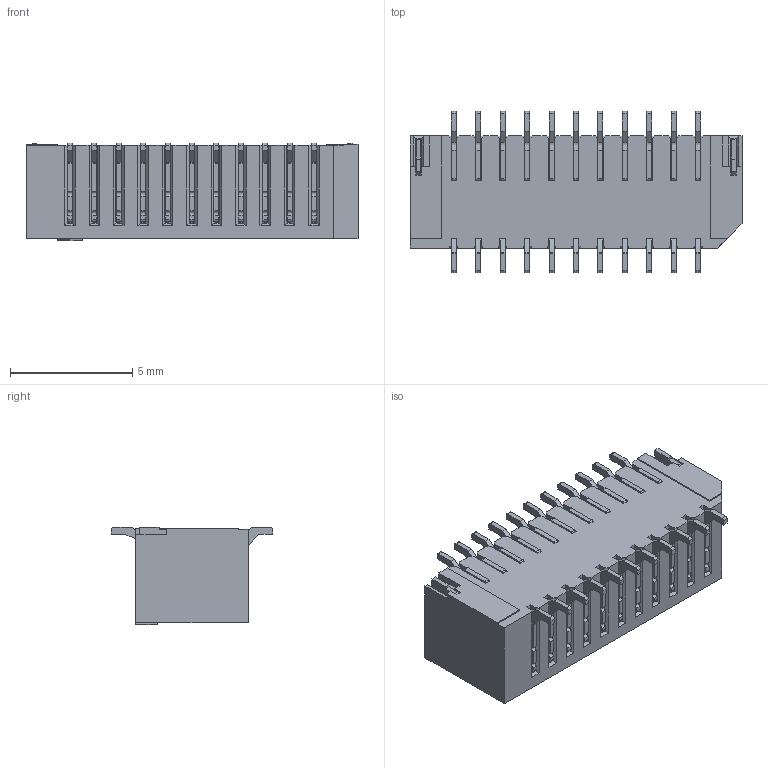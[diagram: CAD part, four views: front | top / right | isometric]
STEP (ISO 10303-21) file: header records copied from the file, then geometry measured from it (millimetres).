
FILE_DESCRIPTION((''),'2;1');
FILE_NAME('22','2009-09-25T',('snow'),(''),'PRO/ENGINEER BY PARAMETRIC TECHNOLOGY CORPORATION, 2007450','PRO/ENGINEER BY PARAMETRIC TECHNOLOGY CORPORATION, 2007450','');
FILE_SCHEMA(('CONFIG_CONTROL_DESIGN'));
Length unit declared in the file: millimetre
Products named in the file (1): 22
Bounding box: 13.6 x 6.6 x 4.01 mm (x, y, z)
Volume: 141.3 mm3; surface area: 683.4 mm2
Topology: 1 solids, 1 shells, 1517 faces, 4775 edges, 3118 vertices
Faces by surface type: plane 1146, cylinder 371
Entity records: 52695 total; most frequent: ORIENTED_EDGE 9550, CARTESIAN_POINT 9434, DIRECTION 8565, EDGE_CURVE 4775, VECTOR 4011, LINE 4011, VERTEX_POINT 3118, AXIS2_PLACEMENT_3D 2277
